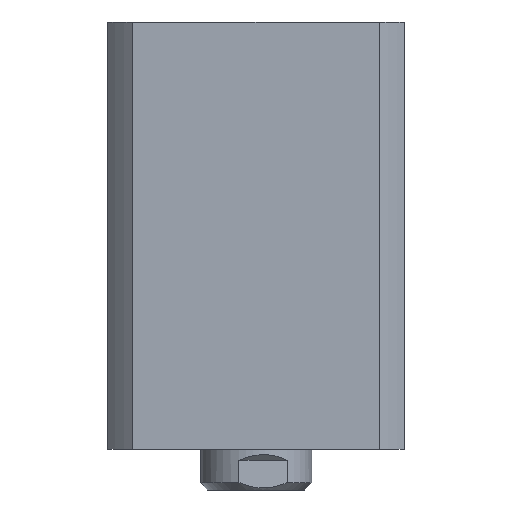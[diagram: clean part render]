
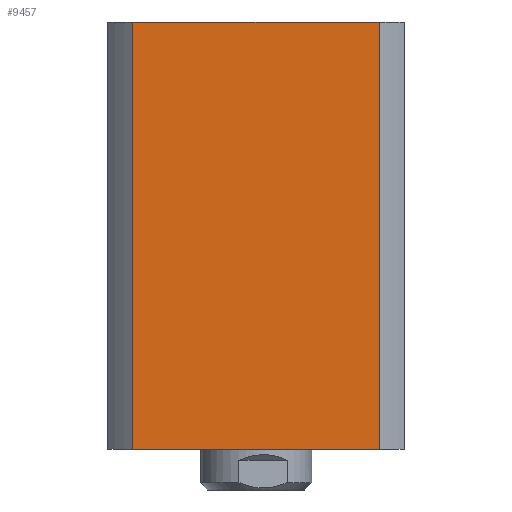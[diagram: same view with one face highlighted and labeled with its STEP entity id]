
A CAD part, left-side view. The second image highlights one B-rep face of the part: STEP entity #9457.
In plain terms, the highlighted planar face has unit normal (-1, 0, 0).
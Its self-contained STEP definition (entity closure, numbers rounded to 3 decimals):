
#124 = VECTOR ( 'NONE', #10505, 1000. ) ;
#583 = LINE ( 'NONE', #8857, #5662 ) ;
#689 = EDGE_CURVE ( 'NONE', #9232, #8940, #10465, .T. ) ;
#2044 = CARTESIAN_POINT ( 'NONE',  ( -40., 33.226, 57.5 ) ) ;
#2273 = CARTESIAN_POINT ( 'NONE',  ( -40., 33.226, 57.5 ) ) ;
#2382 = VECTOR ( 'NONE', #2677, 1000. ) ;
#2522 = CARTESIAN_POINT ( 'NONE',  ( -40., -33.226, 57.5 ) ) ;
#2677 = DIRECTION ( 'NONE',  ( 0., -1., 0. ) ) ;
#2798 = VERTEX_POINT ( 'NONE', #4913 ) ;
#4913 = CARTESIAN_POINT ( 'NONE',  ( -40., -33.226, -57.5 ) ) ;
#5547 = DIRECTION ( 'NONE',  ( 0., 0., -1. ) ) ;
#5662 = VECTOR ( 'NONE', #7813, 1000. ) ;
#6680 = FACE_OUTER_BOUND ( 'NONE', #12509, .T. ) ;
#6988 = CARTESIAN_POINT ( 'NONE',  ( -40., 33.226, -57.5 ) ) ;
#7045 = EDGE_CURVE ( 'NONE', #8940, #2798, #8744, .T. ) ;
#7437 = ORIENTED_EDGE ( 'NONE', *, *, #13837, .T. ) ;
#7586 = ORIENTED_EDGE ( 'NONE', *, *, #8407, .T. ) ;
#7739 = DIRECTION ( 'NONE',  ( 1., 0., 0. ) ) ;
#7813 = DIRECTION ( 'NONE',  ( 0., 0., -1. ) ) ;
#8192 = ORIENTED_EDGE ( 'NONE', *, *, #7045, .F. ) ;
#8407 = EDGE_CURVE ( 'NONE', #9232, #8909, #583, .T. ) ;
#8744 = LINE ( 'NONE', #2522, #12612 ) ;
#8857 = CARTESIAN_POINT ( 'NONE',  ( -40., 33.226, 57.5 ) ) ;
#8909 = VERTEX_POINT ( 'NONE', #11706 ) ;
#8940 = VERTEX_POINT ( 'NONE', #12883 ) ;
#9232 = VERTEX_POINT ( 'NONE', #2044 ) ;
#9457 = ADVANCED_FACE ( 'NONE', ( #6680 ), #10806, .F. ) ;
#10465 = LINE ( 'NONE', #12571, #124 ) ;
#10505 = DIRECTION ( 'NONE',  ( 0., -1., 0. ) ) ;
#10806 = PLANE ( 'NONE',  #12739 ) ;
#11706 = CARTESIAN_POINT ( 'NONE',  ( -40., 33.226, -57.5 ) ) ;
#12509 = EDGE_LOOP ( 'NONE', ( #7437, #8192, #13003, #7586 ) ) ;
#12532 = LINE ( 'NONE', #6988, #2382 ) ;
#12571 = CARTESIAN_POINT ( 'NONE',  ( -40., 33.226, 57.5 ) ) ;
#12612 = VECTOR ( 'NONE', #5547, 1000. ) ;
#12739 = AXIS2_PLACEMENT_3D ( 'NONE', #2273, #7739, #13020 ) ;
#12883 = CARTESIAN_POINT ( 'NONE',  ( -40., -33.226, 57.5 ) ) ;
#13003 = ORIENTED_EDGE ( 'NONE', *, *, #689, .F. ) ;
#13020 = DIRECTION ( 'NONE',  ( 0., 1., 0. ) ) ;
#13837 = EDGE_CURVE ( 'NONE', #8909, #2798, #12532, .T. ) ;
